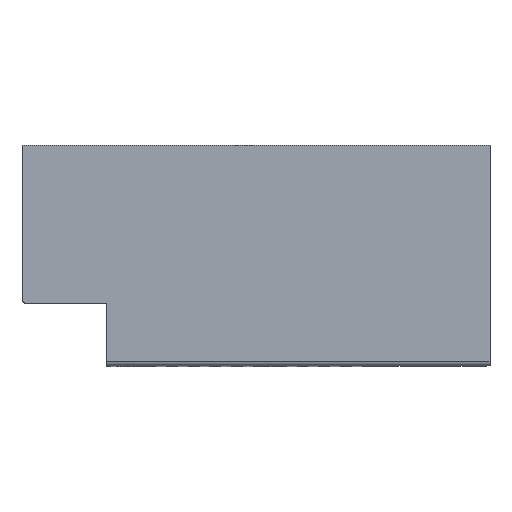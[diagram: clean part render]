
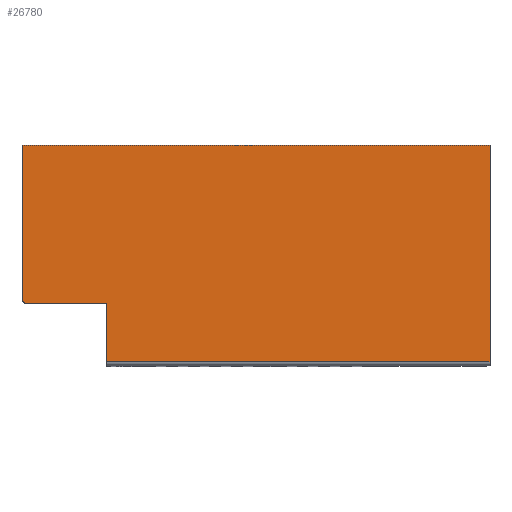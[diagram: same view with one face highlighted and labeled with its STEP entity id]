
A CAD part, top view. The second image highlights one B-rep face of the part: STEP entity #26780.
In plain terms, the highlighted planar face has unit normal (0, 0, 1).
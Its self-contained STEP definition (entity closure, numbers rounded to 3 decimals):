
#10086=DIRECTION('',(0.,-1.,0.));
#10087=VECTOR('',#10086,28.2);
#10088=CARTESIAN_POINT('',(-43.,-0.5,34.5));
#10089=LINE('',#10088,#10087);
#10093=DIRECTION('',(1.,0.,0.));
#10094=VECTOR('',#10093,86.);
#10095=CARTESIAN_POINT('',(-43.,-0.5,34.5));
#10096=LINE('',#10095,#10094);
#10100=DIRECTION('',(-1.,0.,0.));
#10101=VECTOR('',#10100,14.746);
#10102=CARTESIAN_POINT('',(-27.454,-29.5,34.5));
#10103=LINE('',#10102,#10101);
#10107=CARTESIAN_POINT('',(-42.2,-28.7,34.5));
#10108=DIRECTION('',(0.,0.,-1.));
#10109=DIRECTION('',(0.,-1.,0.));
#10110=AXIS2_PLACEMENT_3D('',#10107,#10108,#10109);
#10137=DIRECTION('',(0.,1.,0.));
#10138=VECTOR('',#10137,39.7);
#10139=CARTESIAN_POINT('',(43.,-40.2,34.5));
#10140=LINE('',#10139,#10138);
#10165=DIRECTION('',(1.,0.,0.));
#10166=VECTOR('',#10165,70.454);
#10167=CARTESIAN_POINT('',(-27.454,-40.2,34.5));
#10168=LINE('',#10167,#10166);
#10187=DIRECTION('',(0.,-1.,0.));
#10188=VECTOR('',#10187,10.7);
#10189=CARTESIAN_POINT('',(-27.454,-29.5,34.5));
#10190=LINE('',#10189,#10188);
#18428=CARTESIAN_POINT('',(-43.,-28.7,34.5));
#18430=VERTEX_POINT('',#18428);
#18475=CARTESIAN_POINT('',(-27.454,-40.2,34.5));
#18477=VERTEX_POINT('',#18475);
#18481=CARTESIAN_POINT('',(-27.454,-29.5,34.5));
#18482=VERTEX_POINT('',#18481);
#20184=CARTESIAN_POINT('',(43.,-40.2,34.5));
#20186=VERTEX_POINT('',#20184);
#20633=CARTESIAN_POINT('',(-42.2,-29.5,34.5));
#20635=VERTEX_POINT('',#20633);
#21154=CARTESIAN_POINT('',(-43.,-0.5,34.5));
#21156=VERTEX_POINT('',#21154);
#21167=CARTESIAN_POINT('',(43.,-0.5,34.5));
#21169=VERTEX_POINT('',#21167);
#26761=CARTESIAN_POINT('',(-43.,0.,34.5));
#26762=DIRECTION('',(0.,0.,1.));
#26763=DIRECTION('',(1.,0.,0.));
#26764=AXIS2_PLACEMENT_3D('',#26761,#26762,#26763);
#26765=PLANE('',#26764);
#26766=ORIENTED_EDGE('',*,*,#24694,.T.);
#26768=ORIENTED_EDGE('',*,*,#26767,.F.);
#26770=ORIENTED_EDGE('',*,*,#26769,.F.);
#26772=ORIENTED_EDGE('',*,*,#26771,.F.);
#26774=ORIENTED_EDGE('',*,*,#26773,.T.);
#26776=ORIENTED_EDGE('',*,*,#26775,.T.);
#26777=ORIENTED_EDGE('',*,*,#26753,.F.);
#26778=EDGE_LOOP('',(#26766,#26768,#26770,#26772,#26774,#26776,#26777));
#26779=FACE_OUTER_BOUND('',#26778,.F.);
#26780=ADVANCED_FACE('',(#26779),#26765,.T.);
#10111=CIRCLE('',#10110,0.8);
#24694=EDGE_CURVE('',#21156,#21169,#10096,.T.);
#26753=EDGE_CURVE('',#21156,#18430,#10089,.T.);
#26767=EDGE_CURVE('',#20186,#21169,#10140,.T.);
#26769=EDGE_CURVE('',#18477,#20186,#10168,.T.);
#26771=EDGE_CURVE('',#18482,#18477,#10190,.T.);
#26773=EDGE_CURVE('',#18482,#20635,#10103,.T.);
#26775=EDGE_CURVE('',#20635,#18430,#10111,.T.);
